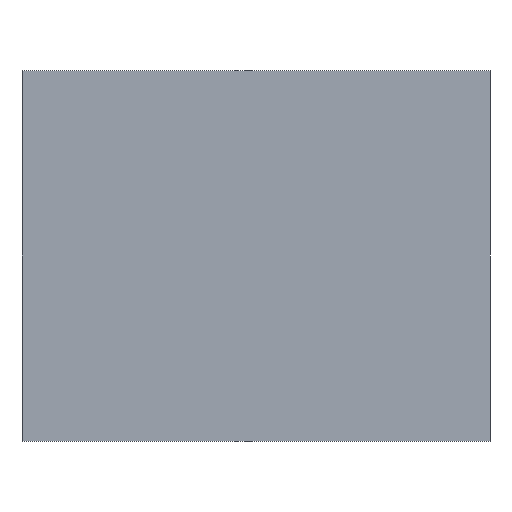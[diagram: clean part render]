
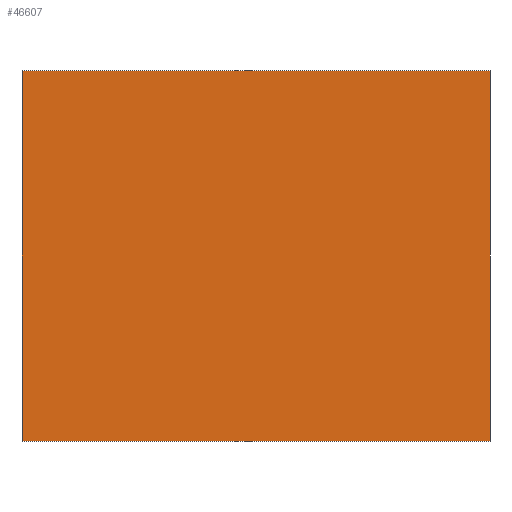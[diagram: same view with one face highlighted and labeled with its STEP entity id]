
A CAD part, top view. The second image highlights one B-rep face of the part: STEP entity #46607.
In plain terms, the highlighted planar face has unit normal (0, 0, 1).
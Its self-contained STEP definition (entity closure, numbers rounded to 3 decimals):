
#46480=DIRECTION('',(0.,-1.,0.));
#46481=VECTOR('',#46480,2671.372);
#46482=CARTESIAN_POINT('',(-1607.135,1335.686,3000.));
#46483=LINE('',#46482,#46481);
#46487=DIRECTION('',(-1.,0.,0.));
#46488=VECTOR('',#46487,3374.27);
#46489=CARTESIAN_POINT('',(1767.135,1335.686,3000.));
#46490=LINE('',#46489,#46488);
#46494=DIRECTION('',(0.,1.,0.));
#46495=VECTOR('',#46494,2671.372);
#46496=CARTESIAN_POINT('',(1767.135,-1335.686,3000.));
#46497=LINE('',#46496,#46495);
#46501=DIRECTION('',(1.,0.,0.));
#46502=VECTOR('',#46501,3374.27);
#46503=CARTESIAN_POINT('',(-1607.135,-1335.686,3000.));
#46504=LINE('',#46503,#46502);
#46516=CARTESIAN_POINT('',(-1607.135,1335.686,3000.));
#46517=CARTESIAN_POINT('',(-1607.135,-1335.686,3000.));
#46518=VERTEX_POINT('',#46516);
#46519=VERTEX_POINT('',#46517);
#46520=CARTESIAN_POINT('',(1767.135,-1335.686,3000.));
#46521=VERTEX_POINT('',#46520);
#46522=CARTESIAN_POINT('',(1767.135,1335.686,3000.));
#46523=VERTEX_POINT('',#46522);
#46596=CARTESIAN_POINT('',(0.,0.,3000.));
#46597=DIRECTION('',(0.,0.,1.));
#46598=DIRECTION('',(1.,0.,0.));
#46599=AXIS2_PLACEMENT_3D('',#46596,#46597,#46598);
#46600=PLANE('',#46599);
#46601=ORIENTED_EDGE('',*,*,#46548,.F.);
#46602=ORIENTED_EDGE('',*,*,#46563,.F.);
#46603=ORIENTED_EDGE('',*,*,#46577,.F.);
#46604=ORIENTED_EDGE('',*,*,#46590,.F.);
#46605=EDGE_LOOP('',(#46601,#46602,#46603,#46604));
#46606=FACE_OUTER_BOUND('',#46605,.F.);
#46548=EDGE_CURVE('',#46518,#46519,#46483,.T.);
#46563=EDGE_CURVE('',#46523,#46518,#46490,.T.);
#46577=EDGE_CURVE('',#46521,#46523,#46497,.T.);
#46590=EDGE_CURVE('',#46519,#46521,#46504,.T.);
#46607=ADVANCED_FACE('',(#46606),#46600,.T.);
